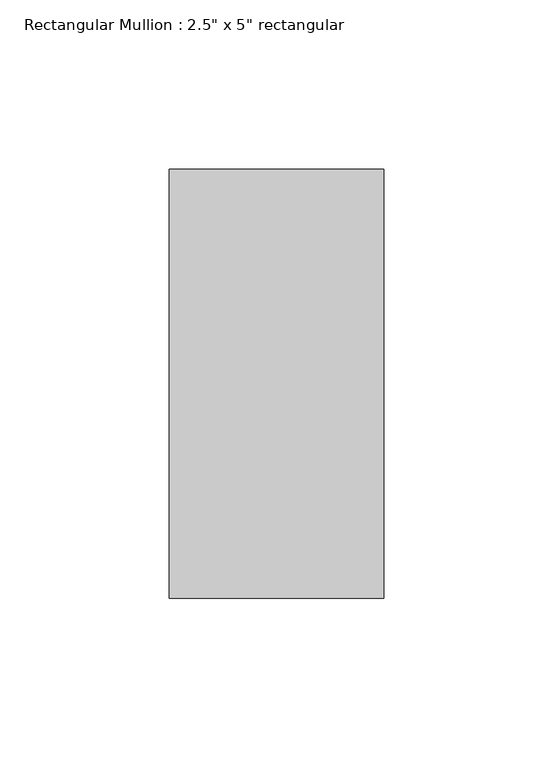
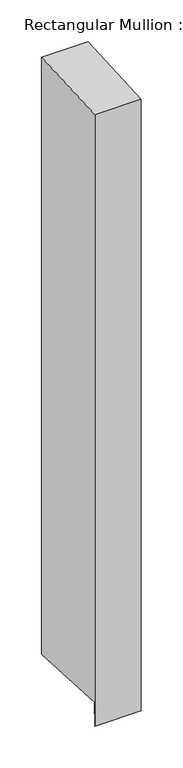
"""IFC4 building model written with IfcOpenShell, lengths in millimetres: member geometry."""

from ifc_helpers import new_model, si_unit, frame, origin, place, context, project, spatial, polyline, outline, extrude, source, transform, mapped, element, save


def member_92b69a95(model_context):
    return source(origin(), model_context, "Body", "SweptSolid", [
        extrude(outline(polyline([(-63.5, -3.1625842), (63.5, 3.1625842), (63.5, -865.5924465), (-61.8420563, -859.3498512), (-63.5, -892.638903), (-63.5, -3.1625842)])), frame((-63.5, 0.0, 0.0), z_axis=(1.0, 0.0, 0.0), x_axis=(0.0, 1.0, 0.0)), (0.0, 0.0, 1.0), 63.5),
    ])


if __name__ == "__main__":
    model = new_model("IFC4")
    model_context = context("Model", 3, world=origin())
    ifc_project = project(units=[si_unit("LENGTHUNIT", "METRE", prefix="MILLI")], contexts=[model_context])
    site = spatial("IfcSite", under=ifc_project)
    building = spatial("IfcBuilding", under=site)
    placement = place(None, origin())
    member_shape = member_92b69a95(model_context)
    element("IfcMember", 1, ObjectType="Rectangular Mullion : 2.5\" x 5\" rectangular", at=placement, inside=building, context=model_context, shape_type="MappedRepresentation", body=[
        mapped(member_shape, transform((0.0, 0.0, 0.0), x_axis=(1.0, 0.0, 0.0), y_axis=(0.0, 1.0, 0.0), z_axis=(0.0, 0.0, 1.0))),
    ])
    save(model, "model.ifc")
